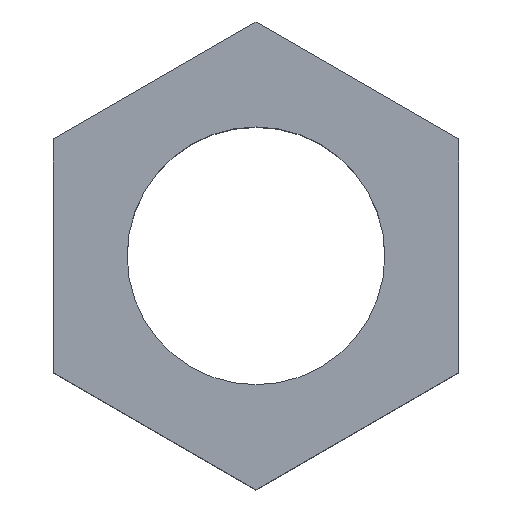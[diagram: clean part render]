
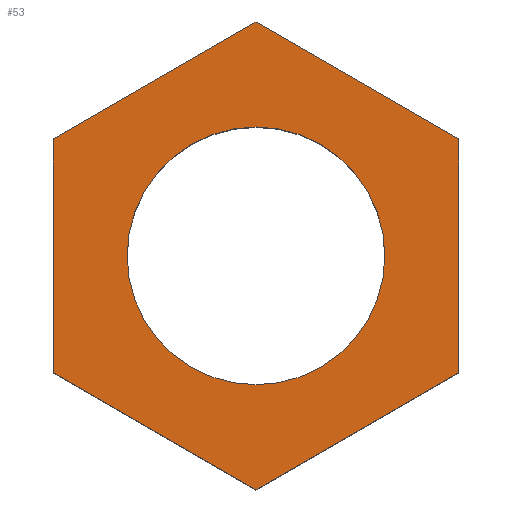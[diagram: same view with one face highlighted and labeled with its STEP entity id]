
A CAD part, top view. The second image highlights one B-rep face of the part: STEP entity #53.
In plain terms, the highlighted planar face has unit normal (0, 0, 1).
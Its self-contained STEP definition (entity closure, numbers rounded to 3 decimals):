
#11 = CARTESIAN_POINT ( 'NONE',  ( 0., 0., 0. ) ) ;
#12 = VERTEX_POINT ( 'NONE', #409 ) ;
#17 = EDGE_CURVE ( 'NONE', #29, #151, #471, .T. ) ;
#18 = ORIENTED_EDGE ( 'NONE', *, *, #199, .T. ) ;
#26 = VECTOR ( 'NONE', #107, 1000. ) ;
#28 = LINE ( 'NONE', #205, #244 ) ;
#29 = VERTEX_POINT ( 'NONE', #237 ) ;
#31 = CARTESIAN_POINT ( 'NONE',  ( 11., 0., 0. ) ) ;
#34 = AXIS2_PLACEMENT_3D ( 'NONE', #11, #273, #191 ) ;
#39 = FACE_OUTER_BOUND ( 'NONE', #136, .T. ) ;
#41 = FACE_BOUND ( 'NONE', #378, .T. ) ;
#53 = ADVANCED_FACE ( 'NONE', ( #41, #39 ), #217, .T. ) ;
#76 = CARTESIAN_POINT ( 'NONE',  ( 5.5, -9.526, 0. ) ) ;
#83 = DIRECTION ( 'NONE',  ( -1., 0., 0. ) ) ;
#91 = VECTOR ( 'NONE', #218, 1000. ) ;
#93 = CIRCLE ( 'NONE', #234, 7. ) ;
#103 = CARTESIAN_POINT ( 'NONE',  ( -7., 0., 0. ) ) ;
#106 = LINE ( 'NONE', #76, #91 ) ;
#107 = DIRECTION ( 'NONE',  ( -0.866, 0.5, 0. ) ) ;
#122 = CARTESIAN_POINT ( 'NONE',  ( 11., -6.351, 0. ) ) ;
#125 = ORIENTED_EDGE ( 'NONE', *, *, #449, .T. ) ;
#129 = VERTEX_POINT ( 'NONE', #347 ) ;
#136 = EDGE_LOOP ( 'NONE', ( #18, #307, #443, #376, #202, #196 ) ) ;
#148 = CIRCLE ( 'NONE', #403, 7. ) ;
#150 = CARTESIAN_POINT ( 'NONE',  ( -11., 6.351, 0. ) ) ;
#151 = VERTEX_POINT ( 'NONE', #150 ) ;
#162 = VERTEX_POINT ( 'NONE', #460 ) ;
#163 = VERTEX_POINT ( 'NONE', #122 ) ;
#168 = EDGE_CURVE ( 'NONE', #12, #29, #294, .T. ) ;
#189 = DIRECTION ( 'NONE',  ( -1., 0., 0. ) ) ;
#191 = DIRECTION ( 'NONE',  ( 1., 0., 0. ) ) ;
#196 = ORIENTED_EDGE ( 'NONE', *, *, #348, .T. ) ;
#199 = EDGE_CURVE ( 'NONE', #129, #162, #450, .T. ) ;
#202 = ORIENTED_EDGE ( 'NONE', *, *, #17, .T. ) ;
#205 = CARTESIAN_POINT ( 'NONE',  ( -11., 0., 0. ) ) ;
#211 = CARTESIAN_POINT ( 'NONE',  ( 0., 0., 0. ) ) ;
#217 = PLANE ( 'NONE',  #34 ) ;
#218 = DIRECTION ( 'NONE',  ( 0.866, 0.5, 0. ) ) ;
#232 = EDGE_CURVE ( 'NONE', #433, #435, #148, .T. ) ;
#234 = AXIS2_PLACEMENT_3D ( 'NONE', #468, #381, #189 ) ;
#237 = CARTESIAN_POINT ( 'NONE',  ( 0., 12.702, 0. ) ) ;
#239 = DIRECTION ( 'NONE',  ( 0., -1., 0. ) ) ;
#243 = EDGE_CURVE ( 'NONE', #162, #163, #106, .T. ) ;
#244 = VECTOR ( 'NONE', #239, 1000. ) ;
#256 = CARTESIAN_POINT ( 'NONE',  ( 7., 0., 0. ) ) ;
#258 = DIRECTION ( 'NONE',  ( 0.866, -0.5, 0. ) ) ;
#273 = DIRECTION ( 'NONE',  ( 0., 0., 1. ) ) ;
#285 = LINE ( 'NONE', #31, #481 ) ;
#292 = CARTESIAN_POINT ( 'NONE',  ( -5.5, 9.526, 0. ) ) ;
#294 = LINE ( 'NONE', #452, #26 ) ;
#295 = VECTOR ( 'NONE', #479, 1000. ) ;
#307 = ORIENTED_EDGE ( 'NONE', *, *, #243, .T. ) ;
#324 = ORIENTED_EDGE ( 'NONE', *, *, #232, .T. ) ;
#347 = CARTESIAN_POINT ( 'NONE',  ( -11., -6.351, 0. ) ) ;
#348 = EDGE_CURVE ( 'NONE', #151, #129, #28, .T. ) ;
#360 = EDGE_CURVE ( 'NONE', #163, #12, #285, .T. ) ;
#376 = ORIENTED_EDGE ( 'NONE', *, *, #168, .T. ) ;
#378 = EDGE_LOOP ( 'NONE', ( #125, #324 ) ) ;
#381 = DIRECTION ( 'NONE',  ( 0., 0., -1. ) ) ;
#391 = VECTOR ( 'NONE', #258, 1000. ) ;
#403 = AXIS2_PLACEMENT_3D ( 'NONE', #211, #456, #83 ) ;
#409 = CARTESIAN_POINT ( 'NONE',  ( 11., 6.351, 0. ) ) ;
#433 = VERTEX_POINT ( 'NONE', #256 ) ;
#435 = VERTEX_POINT ( 'NONE', #103 ) ;
#443 = ORIENTED_EDGE ( 'NONE', *, *, #360, .T. ) ;
#446 = CARTESIAN_POINT ( 'NONE',  ( -5.5, -9.526, 0. ) ) ;
#449 = EDGE_CURVE ( 'NONE', #435, #433, #93, .T. ) ;
#450 = LINE ( 'NONE', #446, #391 ) ;
#452 = CARTESIAN_POINT ( 'NONE',  ( 5.5, 9.526, 0. ) ) ;
#456 = DIRECTION ( 'NONE',  ( 0., 0., -1. ) ) ;
#460 = CARTESIAN_POINT ( 'NONE',  ( 0., -12.702, 0. ) ) ;
#468 = CARTESIAN_POINT ( 'NONE',  ( 0., 0., 0. ) ) ;
#471 = LINE ( 'NONE', #292, #295 ) ;
#477 = DIRECTION ( 'NONE',  ( 0., 1., 0. ) ) ;
#479 = DIRECTION ( 'NONE',  ( -0.866, -0.5, 0. ) ) ;
#481 = VECTOR ( 'NONE', #477, 1000. ) ;
